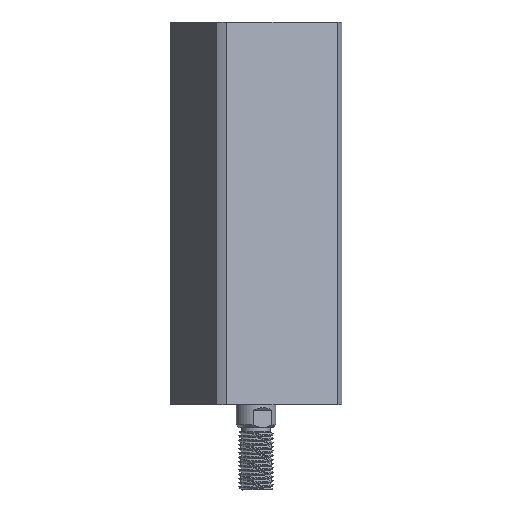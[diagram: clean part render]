
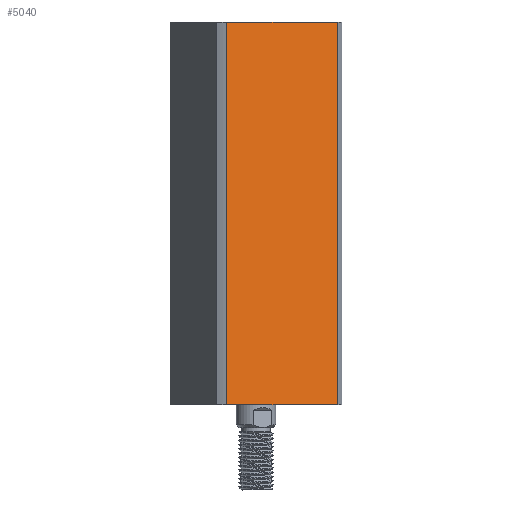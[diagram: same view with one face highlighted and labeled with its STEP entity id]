
A CAD part, front view. The second image highlights one B-rep face of the part: STEP entity #5040.
In plain terms, the highlighted planar face has unit normal (0.383, -0.924, 0) as drawn and (1, 0, 0) by its records, which use the part's own axes.
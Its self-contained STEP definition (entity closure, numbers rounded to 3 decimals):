
#225 = DIRECTION ( 'NONE',  ( 0., 0., 1. ) ) ;
#1073 = CARTESIAN_POINT ( 'NONE',  ( 24., -21.166, -165. ) ) ;
#1351 = VERTEX_POINT ( 'NONE', #7535 ) ;
#1516 = LINE ( 'NONE', #7587, #2952 ) ;
#2026 = DIRECTION ( 'NONE',  ( 0., 1., 0. ) ) ;
#2065 = DIRECTION ( 'NONE',  ( -1., 0., 0. ) ) ;
#2236 = ORIENTED_EDGE ( 'NONE', *, *, #3030, .T. ) ;
#2321 = CARTESIAN_POINT ( 'NONE',  ( 24., 21.166, 0. ) ) ;
#2516 = FACE_OUTER_BOUND ( 'NONE', #7156, .T. ) ;
#2952 = VECTOR ( 'NONE', #8412, 1000. ) ;
#3030 = EDGE_CURVE ( 'NONE', #5224, #5688, #10201, .T. ) ;
#3751 = DIRECTION ( 'NONE',  ( 0., 1., 0. ) ) ;
#4111 = CARTESIAN_POINT ( 'NONE',  ( 24., -21.166, 0. ) ) ;
#4505 = CARTESIAN_POINT ( 'NONE',  ( 24., 24., 135. ) ) ;
#5040 = ADVANCED_FACE ( 'NONE', ( #2516 ), #5369, .F. ) ;
#5224 = VERTEX_POINT ( 'NONE', #4111 ) ;
#5369 = PLANE ( 'NONE',  #10716 ) ;
#5531 = VERTEX_POINT ( 'NONE', #7112 ) ;
#5559 = VECTOR ( 'NONE', #2026, 1000. ) ;
#5683 = VECTOR ( 'NONE', #225, 1000. ) ;
#5688 = VERTEX_POINT ( 'NONE', #2321 ) ;
#5802 = VECTOR ( 'NONE', #3751, 1000. ) ;
#6868 = EDGE_CURVE ( 'NONE', #1351, #5688, #1516, .T. ) ;
#7026 = EDGE_CURVE ( 'NONE', #5531, #1351, #7750, .T. ) ;
#7112 = CARTESIAN_POINT ( 'NONE',  ( 24., -21.166, 135. ) ) ;
#7156 = EDGE_LOOP ( 'NONE', ( #10292, #2236, #7801, #8075 ) ) ;
#7535 = CARTESIAN_POINT ( 'NONE',  ( 24., 21.166, 135. ) ) ;
#7587 = CARTESIAN_POINT ( 'NONE',  ( 24., 21.166, -165. ) ) ;
#7750 = LINE ( 'NONE', #7828, #5559 ) ;
#7801 = ORIENTED_EDGE ( 'NONE', *, *, #6868, .F. ) ;
#7828 = CARTESIAN_POINT ( 'NONE',  ( 24., 24., 135. ) ) ;
#7863 = DIRECTION ( 'NONE',  ( 0., -1., 0. ) ) ;
#8075 = ORIENTED_EDGE ( 'NONE', *, *, #7026, .F. ) ;
#8412 = DIRECTION ( 'NONE',  ( 0., 0., -1. ) ) ;
#9543 = CARTESIAN_POINT ( 'NONE',  ( 24., 24., 0. ) ) ;
#10088 = LINE ( 'NONE', #1073, #5683 ) ;
#10201 = LINE ( 'NONE', #9543, #5802 ) ;
#10292 = ORIENTED_EDGE ( 'NONE', *, *, #10681, .F. ) ;
#10681 = EDGE_CURVE ( 'NONE', #5224, #5531, #10088, .T. ) ;
#10716 = AXIS2_PLACEMENT_3D ( 'NONE', #4505, #2065, #7863 ) ;
